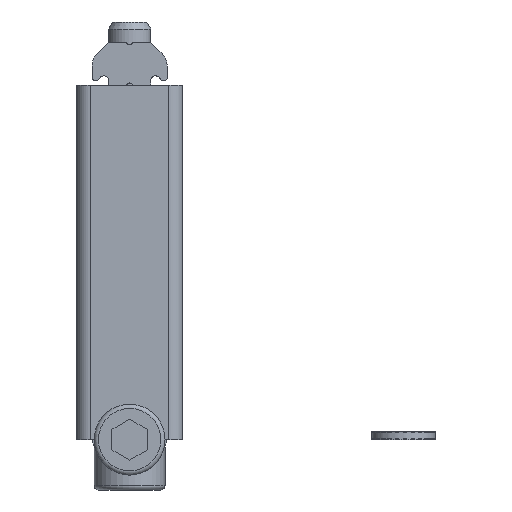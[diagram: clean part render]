
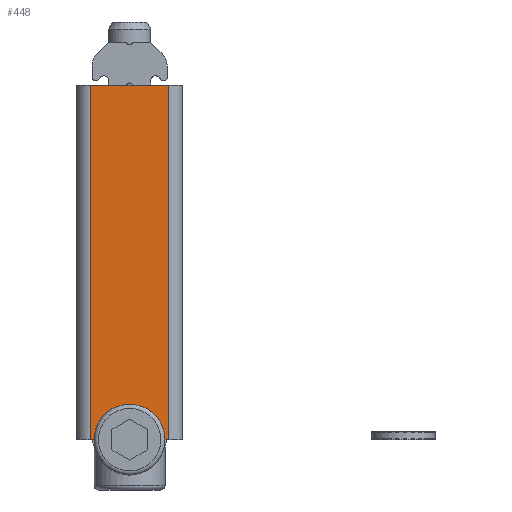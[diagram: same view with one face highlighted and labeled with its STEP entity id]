
A CAD part, left-side view. The second image highlights one B-rep face of the part: STEP entity #448.
In plain terms, the highlighted planar face has unit normal (-1, 0, 0).
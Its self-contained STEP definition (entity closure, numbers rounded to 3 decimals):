
#448 = ADVANCED_FACE( '', ( #1006 ), #1007, .F. );
#1006 = FACE_OUTER_BOUND( '', #1678, .T. );
#1007 = PLANE( '', #1679 );
#1678 = EDGE_LOOP( '', ( #2870, #2871, #2872, #2873 ) );
#1679 = AXIS2_PLACEMENT_3D( '', #2874, #2875, #2876 );
#2870 = ORIENTED_EDGE( '', *, *, #4627, .T. );
#2871 = ORIENTED_EDGE( '', *, *, #4714, .T. );
#2872 = ORIENTED_EDGE( '', *, *, #4499, .F. );
#2873 = ORIENTED_EDGE( '', *, *, #4715, .T. );
#2874 = CARTESIAN_POINT( '', ( -50., -7.5, 50. ) );
#2875 = DIRECTION( '', ( 1., 0., 0. ) );
#2876 = DIRECTION( '', ( 0., 0., -1. ) );
#4499 = EDGE_CURVE( '', #5593, #5594, #5595, .T. );
#4627 = EDGE_CURVE( '', #5808, #5806, #5809, .T. );
#4714 = EDGE_CURVE( '', #5806, #5594, #5942, .T. );
#4715 = EDGE_CURVE( '', #5593, #5808, #5943, .F. );
#5593 = VERTEX_POINT( '', #7319 );
#5594 = VERTEX_POINT( '', #7320 );
#5595 = LINE( '', #7321, #7322 );
#5806 = VERTEX_POINT( '', #7597 );
#5808 = VERTEX_POINT( '', #7599 );
#5809 = LINE( '', #7600, #7601 );
#5942 = LINE( '', #7775, #7776 );
#5943 = LINE( '', #7777, #7778 );
#7319 = CARTESIAN_POINT( '', ( -50., -5.5, 0. ) );
#7320 = CARTESIAN_POINT( '', ( -50., 5.5, 0. ) );
#7321 = CARTESIAN_POINT( '', ( -50., -7.5, 0. ) );
#7322 = VECTOR( '', #8893, 1000. );
#7597 = CARTESIAN_POINT( '', ( -50., 5.5, 50. ) );
#7599 = CARTESIAN_POINT( '', ( -50., -5.5, 50. ) );
#7600 = CARTESIAN_POINT( '', ( -50., -7.5, 50. ) );
#7601 = VECTOR( '', #9066, 1000. );
#7775 = CARTESIAN_POINT( '', ( -50., 5.5, 50. ) );
#7776 = VECTOR( '', #9180, 1000. );
#7777 = CARTESIAN_POINT( '', ( -50., -5.5, 50. ) );
#7778 = VECTOR( '', #9181, 1000. );
#8893 = DIRECTION( '', ( 0., 1., 0. ) );
#9066 = DIRECTION( '', ( 0., 1., 0. ) );
#9180 = DIRECTION( '', ( 0., 0., -1. ) );
#9181 = DIRECTION( '', ( 0., 0., -1. ) );
